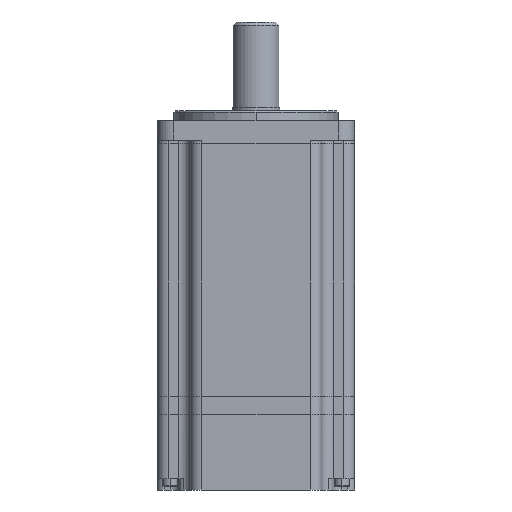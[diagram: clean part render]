
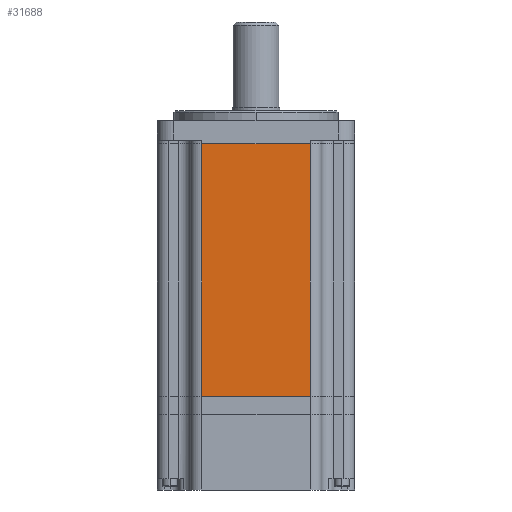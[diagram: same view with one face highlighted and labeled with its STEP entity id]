
A CAD part, left-side view. The second image highlights one B-rep face of the part: STEP entity #31688.
In plain terms, the highlighted planar face has unit normal (-1, 0, 0).
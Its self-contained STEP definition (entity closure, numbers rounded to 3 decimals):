
#555 = EDGE_CURVE ( 'NONE', #36032, #43031, #17311, .T. ) ;
#816 = PLANE ( 'NONE',  #16886 ) ;
#877 = CARTESIAN_POINT ( 'NONE',  ( -30., 16.5, -77. ) ) ;
#3654 = VECTOR ( 'NONE', #47446, 1000. ) ;
#3775 = CARTESIAN_POINT ( 'NONE',  ( -30., 16.5, 0. ) ) ;
#4628 = EDGE_CURVE ( 'NONE', #28045, #37995, #26605, .T. ) ;
#4897 = DIRECTION ( 'NONE',  ( 1., 0., 0. ) ) ;
#9844 = CARTESIAN_POINT ( 'NONE',  ( -30., -16.5, -77. ) ) ;
#14686 = LINE ( 'NONE', #18765, #45879 ) ;
#15200 = VECTOR ( 'NONE', #43258, 1000. ) ;
#16886 = AXIS2_PLACEMENT_3D ( 'NONE', #29319, #4897, #33388 ) ;
#17311 = LINE ( 'NONE', #37588, #37730 ) ;
#18765 = CARTESIAN_POINT ( 'NONE',  ( -30., 16.5, -77. ) ) ;
#18858 = CARTESIAN_POINT ( 'NONE',  ( -30., -16.5, -77. ) ) ;
#26605 = LINE ( 'NONE', #27246, #3654 ) ;
#27246 = CARTESIAN_POINT ( 'NONE',  ( -30., -20., 0. ) ) ;
#28045 = VERTEX_POINT ( 'NONE', #45494 ) ;
#29319 = CARTESIAN_POINT ( 'NONE',  ( -30., -20., -77. ) ) ;
#30034 = EDGE_LOOP ( 'NONE', ( #31867, #39302, #31984, #30604 ) ) ;
#30401 = EDGE_CURVE ( 'NONE', #36032, #28045, #46343, .T. ) ;
#30604 = ORIENTED_EDGE ( 'NONE', *, *, #48190, .T. ) ;
#31688 = ADVANCED_FACE ( 'NONE', ( #32284 ), #816, .F. ) ;
#31867 = ORIENTED_EDGE ( 'NONE', *, *, #555, .F. ) ;
#31984 = ORIENTED_EDGE ( 'NONE', *, *, #4628, .T. ) ;
#32284 = FACE_OUTER_BOUND ( 'NONE', #30034, .T. ) ;
#33388 = DIRECTION ( 'NONE',  ( 0., 0., 1. ) ) ;
#36032 = VERTEX_POINT ( 'NONE', #9844 ) ;
#37588 = CARTESIAN_POINT ( 'NONE',  ( -30., -20., -77. ) ) ;
#37730 = VECTOR ( 'NONE', #41686, 1000. ) ;
#37995 = VERTEX_POINT ( 'NONE', #3775 ) ;
#39302 = ORIENTED_EDGE ( 'NONE', *, *, #30401, .T. ) ;
#41686 = DIRECTION ( 'NONE',  ( 0., 1., 0. ) ) ;
#43031 = VERTEX_POINT ( 'NONE', #877 ) ;
#43171 = DIRECTION ( 'NONE',  ( 0., 0., -1. ) ) ;
#43258 = DIRECTION ( 'NONE',  ( 0., 0., 1. ) ) ;
#45494 = CARTESIAN_POINT ( 'NONE',  ( -30., -16.5, 0. ) ) ;
#45879 = VECTOR ( 'NONE', #43171, 1000. ) ;
#46343 = LINE ( 'NONE', #18858, #15200 ) ;
#47446 = DIRECTION ( 'NONE',  ( 0., 1., 0. ) ) ;
#48190 = EDGE_CURVE ( 'NONE', #37995, #43031, #14686, .T. ) ;
